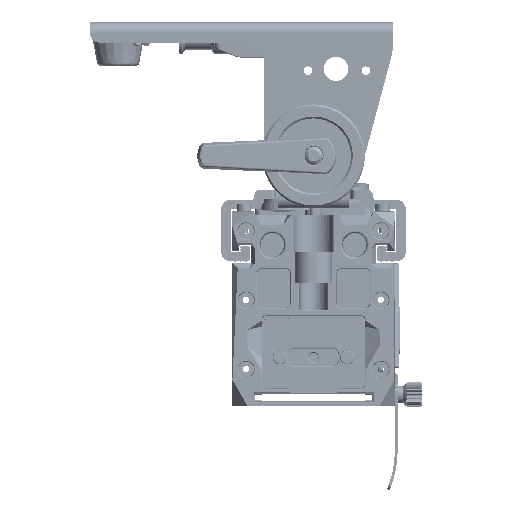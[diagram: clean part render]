
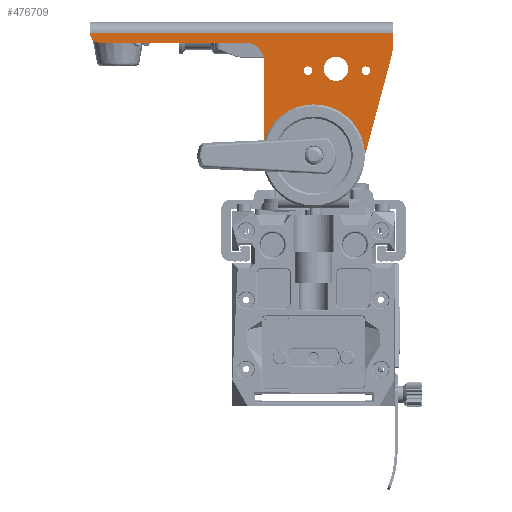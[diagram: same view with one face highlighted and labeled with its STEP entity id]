
A CAD part, front view. The second image highlights one B-rep face of the part: STEP entity #476709.
In plain terms, the highlighted planar face has unit normal (0, -1, 0).
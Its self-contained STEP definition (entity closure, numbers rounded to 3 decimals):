
#476071=CARTESIAN_POINT('',(4.3,-210.,80.5));
#476072=VERTEX_POINT('',#476071);
#476087=CARTESIAN_POINT('',(0.05,-210.,80.5));
#476088=DIRECTION('',(-0.,-1.,-0.));
#476089=DIRECTION('',(1.,0.,-0.));
#476090=AXIS2_PLACEMENT_3D('',#476087,#476088,#476089);
#476091=CIRCLE('',#476090,4.25);
#476092=EDGE_CURVE('',#476072,#476072,#476091,.T.);
#476104=CARTESIAN_POINT('',(-0.7,-210.,126.));
#476105=VERTEX_POINT('',#476104);
#476120=CARTESIAN_POINT('',(-2.95,-210.,126.));
#476121=DIRECTION('',(-0.,-1.,-0.));
#476122=DIRECTION('',(1.,0.,-0.));
#476123=AXIS2_PLACEMENT_3D('',#476120,#476121,#476122);
#476124=CIRCLE('',#476123,2.25);
#476125=EDGE_CURVE('',#476105,#476105,#476124,.T.);
#476137=CARTESIAN_POINT('',(30.3,-210.,126.));
#476138=VERTEX_POINT('',#476137);
#476153=CARTESIAN_POINT('',(28.05,-210.,126.));
#476154=DIRECTION('',(-0.,-1.,-0.));
#476155=DIRECTION('',(1.,0.,-0.));
#476156=AXIS2_PLACEMENT_3D('',#476153,#476154,#476155);
#476157=CIRCLE('',#476156,2.25);
#476158=EDGE_CURVE('',#476138,#476138,#476157,.T.);
#476170=CARTESIAN_POINT('',(18.55,-210.,127.));
#476171=VERTEX_POINT('',#476170);
#476186=CARTESIAN_POINT('',(12.05,-210.,127.));
#476187=DIRECTION('',(-0.,-1.,-0.));
#476188=DIRECTION('',(1.,0.,-0.));
#476189=AXIS2_PLACEMENT_3D('',#476186,#476187,#476188);
#476190=CIRCLE('',#476189,6.5);
#476191=EDGE_CURVE('',#476171,#476171,#476190,.T.);
#476201=CARTESIAN_POINT('',(25.647,-210.,73.641));
#476202=VERTEX_POINT('',#476201);
#476211=CARTESIAN_POINT('',(-26.45,-210.,80.5));
#476212=VERTEX_POINT('',#476211);
#476213=CARTESIAN_POINT('',(0.05,-210.,80.5));
#476214=DIRECTION('',(0.,1.,0.));
#476215=DIRECTION('',(1.,0.,-0.));
#476216=AXIS2_PLACEMENT_3D('',#476213,#476214,#476215);
#476217=CIRCLE('',#476216,26.5);
#476218=EDGE_CURVE('',#476202,#476212,#476217,.T.);
#476252=CARTESIAN_POINT('',(-26.45,-210.,131.));
#476253=VERTEX_POINT('',#476252);
#476254=CARTESIAN_POINT('',(-26.45,-210.,80.5));
#476255=DIRECTION('',(0.,-0.,1.));
#476256=VECTOR('',#476255,50.5);
#476257=LINE('',#476254,#476256);
#476258=EDGE_CURVE('',#476212,#476253,#476257,.T.);
#476274=CARTESIAN_POINT('',(-36.45,-210.,141.));
#476275=VERTEX_POINT('',#476274);
#476276=CARTESIAN_POINT('',(-36.45,-210.,131.));
#476277=DIRECTION('',(-0.,-1.,-0.));
#476278=DIRECTION('',(1.,0.,-0.));
#476279=AXIS2_PLACEMENT_3D('',#476276,#476277,#476278);
#476280=CIRCLE('',#476279,10.);
#476281=EDGE_CURVE('',#476253,#476275,#476280,.T.);
#476307=CARTESIAN_POINT('',(41.451,-210.,132.621));
#476308=VERTEX_POINT('',#476307);
#476309=CARTESIAN_POINT('',(41.451,-210.,132.621));
#476310=DIRECTION('',(-0.259,0.,-0.966));
#476311=VECTOR('',#476310,61.06);
#476312=LINE('',#476309,#476311);
#476313=EDGE_CURVE('',#476308,#476202,#476312,.T.);
#476347=CARTESIAN_POINT('',(-114.357,-210.,141.));
#476348=VERTEX_POINT('',#476347);
#476349=CARTESIAN_POINT('',(-36.45,-210.,141.));
#476350=DIRECTION('',(-1.,-0.,0.));
#476351=VECTOR('',#476350,77.907);
#476352=LINE('',#476349,#476351);
#476353=EDGE_CURVE('',#476275,#476348,#476352,.T.);
#476635=CARTESIAN_POINT('',(42.643,-210.,141.68));
#476636=VERTEX_POINT('',#476635);
#476643=CARTESIAN_POINT('',(7.643,-210.,141.68));
#476644=DIRECTION('',(-0.,1.,-0.));
#476645=DIRECTION('',(-1.,0.,0.));
#476646=AXIS2_PLACEMENT_3D('',#476643,#476644,#476645);
#476647=CIRCLE('',#476646,35.);
#476648=EDGE_CURVE('',#476636,#476308,#476647,.T.);
#476661=CARTESIAN_POINT('',(0.05,-210.,152.));
#476662=DIRECTION('',(0.,1.,0.));
#476663=DIRECTION('',(1.,0.,-0.));
#476664=AXIS2_PLACEMENT_3D('',#476661,#476662,#476663);
#476665=PLANE('',#476664);
#476666=ORIENTED_EDGE('',*,*,#476218,.F.);
#476667=ORIENTED_EDGE('',*,*,#476313,.F.);
#476668=ORIENTED_EDGE('',*,*,#476648,.F.);
#476669=CARTESIAN_POINT('',(42.643,-210.,146.));
#476670=VERTEX_POINT('',#476669);
#476671=CARTESIAN_POINT('',(42.643,-210.,141.68));
#476672=DIRECTION('',(0.,-0.,1.));
#476673=VECTOR('',#476672,4.32);
#476674=LINE('',#476671,#476673);
#476675=EDGE_CURVE('',#476636,#476670,#476674,.T.);
#476676=ORIENTED_EDGE('',*,*,#476675,.T.);
#476677=CARTESIAN_POINT('',(-119.357,-210.,146.));
#476678=VERTEX_POINT('',#476677);
#476679=CARTESIAN_POINT('',(-119.357,-210.,146.));
#476680=DIRECTION('',(1.,0.,-0.));
#476681=VECTOR('',#476680,162.);
#476682=LINE('',#476679,#476681);
#476683=EDGE_CURVE('',#476678,#476670,#476682,.T.);
#476684=ORIENTED_EDGE('',*,*,#476683,.F.);
#476685=CARTESIAN_POINT('',(-114.357,-210.,146.));
#476686=DIRECTION('',(-0.,1.,-0.));
#476687=DIRECTION('',(-1.,0.,0.));
#476688=AXIS2_PLACEMENT_3D('',#476685,#476686,#476687);
#476689=CIRCLE('',#476688,5.);
#476690=EDGE_CURVE('',#476348,#476678,#476689,.T.);
#476691=ORIENTED_EDGE('',*,*,#476690,.F.);
#476692=ORIENTED_EDGE('',*,*,#476353,.F.);
#476693=ORIENTED_EDGE('',*,*,#476281,.F.);
#476694=ORIENTED_EDGE('',*,*,#476258,.F.);
#476695=EDGE_LOOP('',(#476666,#476667,#476668,#476676,#476684,#476691,#476692,#476693,#476694));
#476696=FACE_BOUND('',#476695,.T.);
#476697=ORIENTED_EDGE('',*,*,#476191,.F.);
#476698=EDGE_LOOP('',(#476697));
#476699=FACE_BOUND('',#476698,.T.);
#476700=ORIENTED_EDGE('',*,*,#476125,.F.);
#476701=EDGE_LOOP('',(#476700));
#476702=FACE_BOUND('',#476701,.T.);
#476703=ORIENTED_EDGE('',*,*,#476158,.F.);
#476704=EDGE_LOOP('',(#476703));
#476705=FACE_BOUND('',#476704,.T.);
#476706=ORIENTED_EDGE('',*,*,#476092,.F.);
#476707=EDGE_LOOP('',(#476706));
#476708=FACE_BOUND('',#476707,.T.);
#476709=ADVANCED_FACE('',(#476696,#476699,#476702,#476705,#476708),#476665,.F.);
